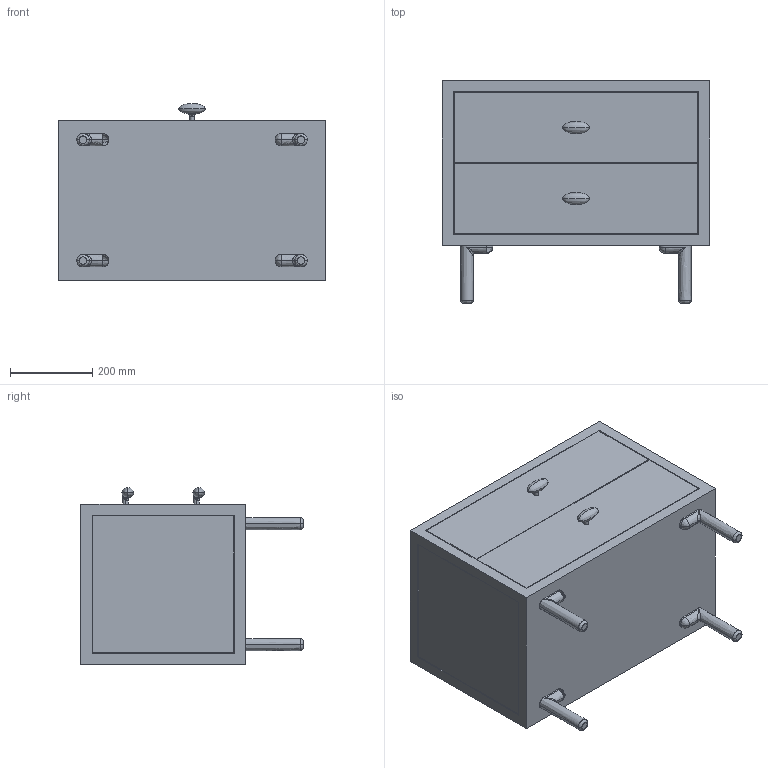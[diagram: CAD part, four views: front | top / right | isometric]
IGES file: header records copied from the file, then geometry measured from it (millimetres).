
Start section: SolidWorks IGES file using analytic representation for surfaces
Global section: file name: C:\Users\David.BDLE\Desktop\063 Classon Bedside table_vb\063_Bedside table_vb_prmt.IGS; native system: SolidWorks 2016; preprocessor: SolidWorks 2016; author: David; date: 200319.163646; units: millimetre
Bounding box: 650 x 540 x 430 mm (x, y, z)
Surface area: 3408416.5 mm2 (no closed solid volume)
Topology: 0 solids, 0 shells, 165 faces, 1412 edges, 1380 vertices
Faces by surface type: bspline 121, revolution 44
